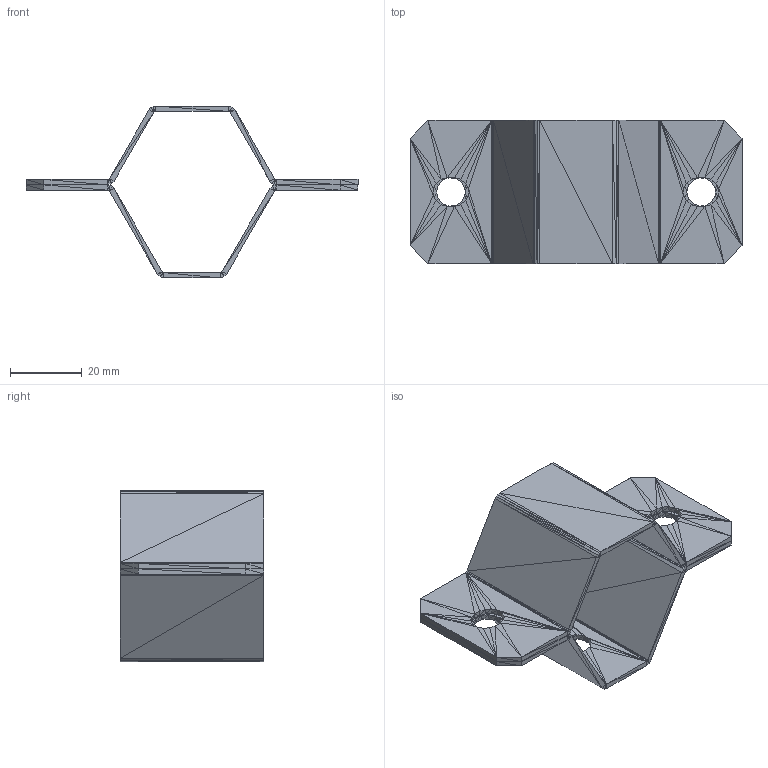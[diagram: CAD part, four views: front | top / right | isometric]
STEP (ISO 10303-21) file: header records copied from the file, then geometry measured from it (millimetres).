
FILE_DESCRIPTION((''),'2;1');
FILE_NAME('030316', '2025-07-22T05:59:36', (''), (''), 'ImageToStl.com STEP Converter','', '');
FILE_SCHEMA(('AUTOMOTIVE_DESIGN_CC2'));
Length unit declared in the file: metre
Products named in the file (1): product0
Bounding box: 92.67 x 40 x 48 mm (x, y, z)
Surface area: 19235 mm2 (no closed solid volume)
Topology: 0 solids, 582 shells, 582 faces, 1746 edges, 277 vertices
Faces by surface type: plane 582
Entity records: 13386 total; most frequent: DIRECTION 2912, ORIENTED_EDGE 1746, EDGE_CURVE 1746, LINE 1746, VECTOR 1746, AXIS2_PLACEMENT_3D 583, FACE_SURFACE 582, PLANE 582
